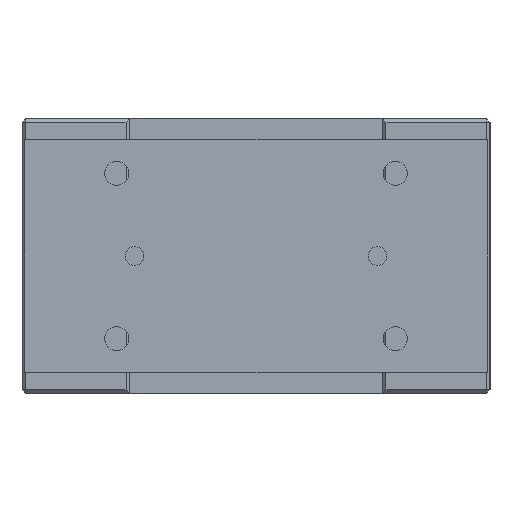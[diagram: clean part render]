
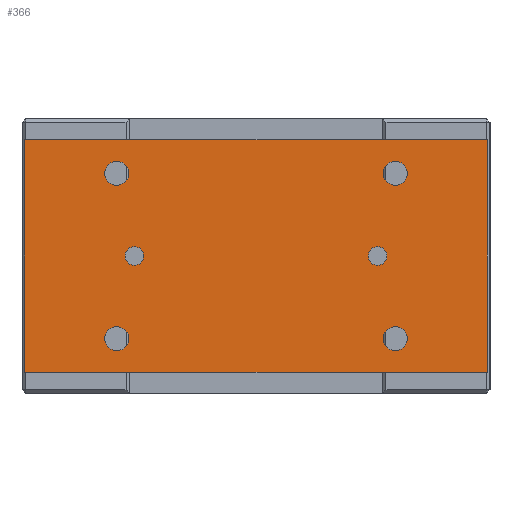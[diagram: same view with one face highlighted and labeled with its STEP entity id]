
A CAD part, left-side view. The second image highlights one B-rep face of the part: STEP entity #366.
In plain terms, the highlighted planar face has unit normal (-1, 0, 0).
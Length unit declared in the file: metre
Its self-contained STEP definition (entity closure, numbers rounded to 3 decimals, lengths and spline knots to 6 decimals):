
#366 = ADVANCED_FACE( '', ( #935, #936, #937, #938, #939, #940, #941 ), #942, .T. );
#935 = FACE_BOUND( '', #1829, .T. );
#936 = FACE_BOUND( '', #1830, .T. );
#937 = FACE_BOUND( '', #1831, .T. );
#938 = FACE_BOUND( '', #1832, .T. );
#939 = FACE_BOUND( '', #1833, .T. );
#940 = FACE_BOUND( '', #1834, .T. );
#941 = FACE_OUTER_BOUND( '', #1835, .T. );
#942 = PLANE( '', #1836 );
#1829 = EDGE_LOOP( '', ( #2886 ) );
#1830 = EDGE_LOOP( '', ( #2887 ) );
#1831 = EDGE_LOOP( '', ( #2888 ) );
#1832 = EDGE_LOOP( '', ( #2889 ) );
#1833 = EDGE_LOOP( '', ( #2890 ) );
#1834 = EDGE_LOOP( '', ( #2891 ) );
#1835 = EDGE_LOOP( '', ( #2892, #2893, #2894, #2895 ) );
#1836 = AXIS2_PLACEMENT_3D( '', #2896, #2897, #2898 );
#2886 = ORIENTED_EDGE( '', *, *, #4477, .F. );
#2887 = ORIENTED_EDGE( '', *, *, #4478, .T. );
#2888 = ORIENTED_EDGE( '', *, *, #4479, .F. );
#2889 = ORIENTED_EDGE( '', *, *, #4480, .F. );
#2890 = ORIENTED_EDGE( '', *, *, #4313, .F. );
#2891 = ORIENTED_EDGE( '', *, *, #4481, .F. );
#2892 = ORIENTED_EDGE( '', *, *, #4321, .T. );
#2893 = ORIENTED_EDGE( '', *, *, #4341, .T. );
#2894 = ORIENTED_EDGE( '', *, *, #4482, .T. );
#2895 = ORIENTED_EDGE( '', *, *, #4483, .T. );
#2896 = CARTESIAN_POINT( '', ( -0.143, -0.1245, -0.0115 ) );
#2897 = DIRECTION( '', ( -1., 0., 0. ) );
#2898 = DIRECTION( '', ( 0., 0., 1. ) );
#4313 = EDGE_CURVE( '', #4965, #4965, #4966, .T. );
#4321 = EDGE_CURVE( '', #4980, #4978, #4981, .T. );
#4341 = EDGE_CURVE( '', #4978, #5012, #5014, .T. );
#4477 = EDGE_CURVE( '', #5235, #5235, #5236, .T. );
#4478 = EDGE_CURVE( '', #5237, #5237, #5238, .T. );
#4479 = EDGE_CURVE( '', #5239, #5239, #5240, .T. );
#4480 = EDGE_CURVE( '', #5241, #5241, #5242, .T. );
#4481 = EDGE_CURVE( '', #5243, #5243, #5244, .T. );
#4482 = EDGE_CURVE( '', #5012, #5245, #5246, .T. );
#4483 = EDGE_CURVE( '', #5245, #4980, #5247, .T. );
#4965 = VERTEX_POINT( '', #5904 );
#4966 = CIRCLE( '', #5905, 0.0065 );
#4978 = VERTEX_POINT( '', #5918 );
#4980 = VERTEX_POINT( '', #5921 );
#4981 = LINE( '', #5922, #5923 );
#5012 = VERTEX_POINT( '', #5964 );
#5014 = LINE( '', #5967, #5968 );
#5235 = VERTEX_POINT( '', #6286 );
#5236 = CIRCLE( '', #6287, 0.005 );
#5237 = VERTEX_POINT( '', #6288 );
#5238 = CIRCLE( '', #6289, 0.005 );
#5239 = VERTEX_POINT( '', #6290 );
#5240 = CIRCLE( '', #6291, 0.0065 );
#5241 = VERTEX_POINT( '', #6292 );
#5242 = CIRCLE( '', #6293, 0.0065 );
#5243 = VERTEX_POINT( '', #6294 );
#5244 = CIRCLE( '', #6295, 0.0065 );
#5245 = VERTEX_POINT( '', #6296 );
#5246 = LINE( '', #6297, #6298 );
#5247 = LINE( '', #6299, #6300 );
#5904 = CARTESIAN_POINT( '', ( -0.143, -0.075, -0.023 ) );
#5905 = AXIS2_PLACEMENT_3D( '', #7328, #7329, #7330 );
#5918 = CARTESIAN_POINT( '', ( -0.143, -0.1245, -0.0115 ) );
#5921 = CARTESIAN_POINT( '', ( -0.143, -0.1245, -0.1365 ) );
#5922 = CARTESIAN_POINT( '', ( -0.143, -0.1245, -0.1365 ) );
#5923 = VECTOR( '', #7342, 1. );
#5964 = CARTESIAN_POINT( '', ( -0.143, 0.1245, -0.0115 ) );
#5967 = CARTESIAN_POINT( '', ( -0.143, -0.1245, -0.0115 ) );
#5968 = VECTOR( '', #7363, 1. );
#6286 = CARTESIAN_POINT( '', ( -0.143, -0.0705, -0.074 ) );
#6287 = AXIS2_PLACEMENT_3D( '', #7521, #7522, #7523 );
#6288 = CARTESIAN_POINT( '', ( -0.143, 0.0705, -0.074 ) );
#6289 = AXIS2_PLACEMENT_3D( '', #7524, #7525, #7526 );
#6290 = CARTESIAN_POINT( '', ( -0.143, -0.075, -0.112 ) );
#6291 = AXIS2_PLACEMENT_3D( '', #7527, #7528, #7529 );
#6292 = CARTESIAN_POINT( '', ( -0.143, 0.075, -0.112 ) );
#6293 = AXIS2_PLACEMENT_3D( '', #7530, #7531, #7532 );
#6294 = CARTESIAN_POINT( '', ( -0.143, 0.075, -0.023 ) );
#6295 = AXIS2_PLACEMENT_3D( '', #7533, #7534, #7535 );
#6296 = CARTESIAN_POINT( '', ( -0.143, 0.1245, -0.1365 ) );
#6297 = CARTESIAN_POINT( '', ( -0.143, 0.1245, -0.0115 ) );
#6298 = VECTOR( '', #7536, 1. );
#6299 = CARTESIAN_POINT( '', ( -0.143, 0.1245, -0.1365 ) );
#6300 = VECTOR( '', #7537, 1. );
#7328 = CARTESIAN_POINT( '', ( -0.143, -0.075, -0.0295 ) );
#7329 = DIRECTION( '', ( -1., 0., 0. ) );
#7330 = DIRECTION( '', ( 0., 0., 1. ) );
#7342 = DIRECTION( '', ( 0., 0., 1. ) );
#7363 = DIRECTION( '', ( 0., 1., 0. ) );
#7521 = CARTESIAN_POINT( '', ( -0.143, -0.0655, -0.074 ) );
#7522 = DIRECTION( '', ( -1., 0., 0. ) );
#7523 = DIRECTION( '', ( 0., -1., 0. ) );
#7524 = CARTESIAN_POINT( '', ( -0.143, 0.0655, -0.074 ) );
#7525 = DIRECTION( '', ( 1., 0., 0. ) );
#7526 = DIRECTION( '', ( 0., 1., 0. ) );
#7527 = CARTESIAN_POINT( '', ( -0.143, -0.075, -0.1185 ) );
#7528 = DIRECTION( '', ( -1., 0., 0. ) );
#7529 = DIRECTION( '', ( 0., 0., 1. ) );
#7530 = CARTESIAN_POINT( '', ( -0.143, 0.075, -0.1185 ) );
#7531 = DIRECTION( '', ( -1., 0., 0. ) );
#7532 = DIRECTION( '', ( 0., 0., 1. ) );
#7533 = CARTESIAN_POINT( '', ( -0.143, 0.075, -0.0295 ) );
#7534 = DIRECTION( '', ( -1., 0., 0. ) );
#7535 = DIRECTION( '', ( 0., 0., 1. ) );
#7536 = DIRECTION( '', ( 0., 0., -1. ) );
#7537 = DIRECTION( '', ( 0., -1., 0. ) );
